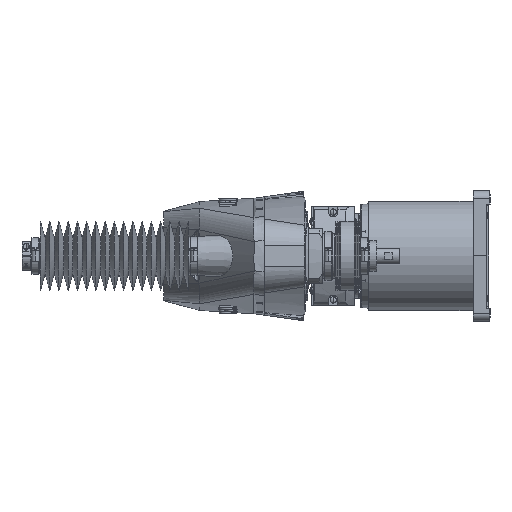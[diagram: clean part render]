
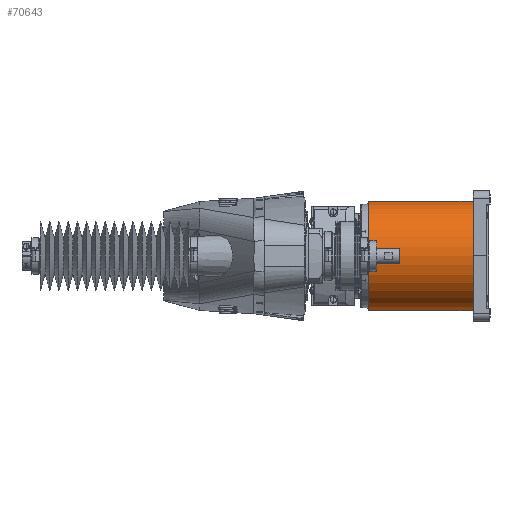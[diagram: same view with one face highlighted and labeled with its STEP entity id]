
A CAD part, left-side view. The second image highlights one B-rep face of the part: STEP entity #70643.
In plain terms, the highlighted cylindrical face has radius 71 mm (diameter 142 mm), a partial arc.
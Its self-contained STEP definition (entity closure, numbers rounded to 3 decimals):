
#628 = DIRECTION ( 'NONE',  ( 0., 1., 0. ) ) ;
#2414 = VERTEX_POINT ( 'NONE', #59971 ) ;
#3170 = ORIENTED_EDGE ( 'NONE', *, *, #75525, .F. ) ;
#6089 = CARTESIAN_POINT ( 'NONE',  ( 0., 166.5, -71. ) ) ;
#9643 = CARTESIAN_POINT ( 'NONE',  ( 0., 157.5, -71. ) ) ;
#18278 = ORIENTED_EDGE ( 'NONE', *, *, #116267, .T. ) ;
#21052 = CARTESIAN_POINT ( 'NONE',  ( 0., 157.5, 0. ) ) ;
#25227 = CIRCLE ( 'NONE', #48954, 71. ) ;
#25458 = CARTESIAN_POINT ( 'NONE',  ( 0., 22., 71. ) ) ;
#27610 = CARTESIAN_POINT ( 'NONE',  ( 0., 22., -71. ) ) ;
#28784 = CARTESIAN_POINT ( 'NONE',  ( 0., 166.5, 71. ) ) ;
#30393 = CIRCLE ( 'NONE', #111743, 71. ) ;
#31224 = EDGE_LOOP ( 'NONE', ( #87642, #104964, #18278, #3170 ) ) ;
#36987 = DIRECTION ( 'NONE',  ( 0., -1., 0. ) ) ;
#38423 = DIRECTION ( 'NONE',  ( -1., 0., 0. ) ) ;
#42800 = FACE_OUTER_BOUND ( 'NONE', #31224, .T. ) ;
#46796 = LINE ( 'NONE', #28784, #47551 ) ;
#47551 = VECTOR ( 'NONE', #113829, 1000. ) ;
#48954 = AXIS2_PLACEMENT_3D ( 'NONE', #104075, #85992, #121565 ) ;
#49805 = VERTEX_POINT ( 'NONE', #9643 ) ;
#59063 = EDGE_CURVE ( 'NONE', #2414, #118167, #46796, .T. ) ;
#59971 = CARTESIAN_POINT ( 'NONE',  ( 0., 157.5, 71. ) ) ;
#70643 = ADVANCED_FACE ( 'NONE', ( #42800 ), #89835, .T. ) ;
#71901 = DIRECTION ( 'NONE',  ( 0., -1., 0. ) ) ;
#75525 = EDGE_CURVE ( 'NONE', #118167, #80628, #25227, .T. ) ;
#78005 = AXIS2_PLACEMENT_3D ( 'NONE', #108583, #71901, #109200 ) ;
#80628 = VERTEX_POINT ( 'NONE', #27610 ) ;
#85992 = DIRECTION ( 'NONE',  ( 0., -1., 0. ) ) ;
#87642 = ORIENTED_EDGE ( 'NONE', *, *, #59063, .F. ) ;
#89835 = CYLINDRICAL_SURFACE ( 'NONE', #78005, 71. ) ;
#90914 = LINE ( 'NONE', #6089, #122143 ) ;
#100520 = EDGE_CURVE ( 'NONE', #49805, #2414, #30393, .T. ) ;
#104075 = CARTESIAN_POINT ( 'NONE',  ( 0., 22., 0. ) ) ;
#104964 = ORIENTED_EDGE ( 'NONE', *, *, #100520, .F. ) ;
#108583 = CARTESIAN_POINT ( 'NONE',  ( 0., 166.5, 0. ) ) ;
#109200 = DIRECTION ( 'NONE',  ( 0., 0., -1. ) ) ;
#111743 = AXIS2_PLACEMENT_3D ( 'NONE', #21052, #628, #38423 ) ;
#113829 = DIRECTION ( 'NONE',  ( 0., -1., 0. ) ) ;
#116267 = EDGE_CURVE ( 'NONE', #49805, #80628, #90914, .T. ) ;
#118167 = VERTEX_POINT ( 'NONE', #25458 ) ;
#121565 = DIRECTION ( 'NONE',  ( 0.166, 0., 0.986 ) ) ;
#122143 = VECTOR ( 'NONE', #36987, 1000. ) ;
